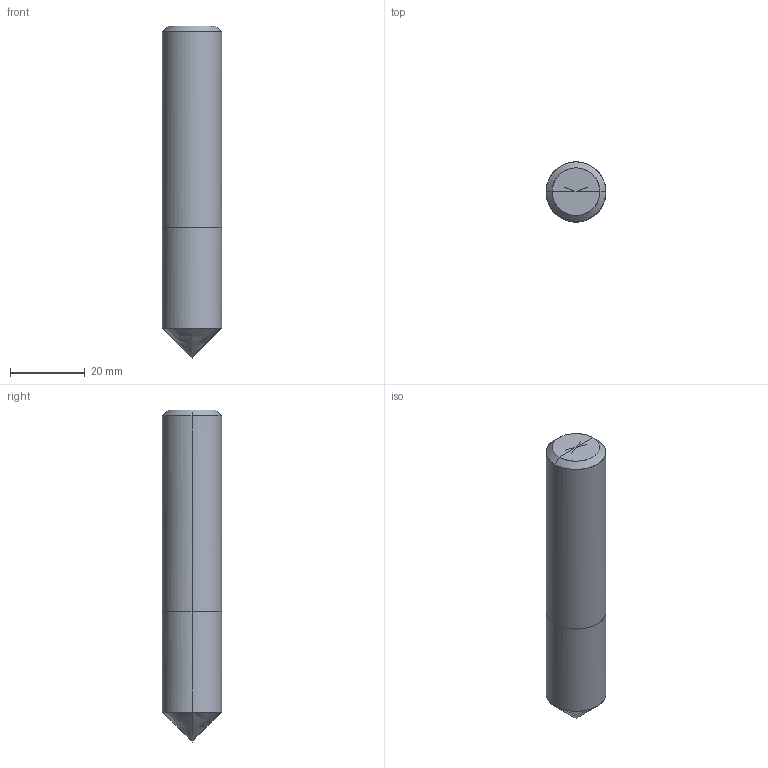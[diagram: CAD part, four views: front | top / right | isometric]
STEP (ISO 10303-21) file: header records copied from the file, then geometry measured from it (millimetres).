
FILE_DESCRIPTION(/* description */ (''),/* implementation_level */ '2;1');
FILE_NAME(/*name*/ '2141-16-90',/*time_stamp*/'2021-5-6T11:14:5',/*author*/ ('ISBE GmbH'),/*organization*/ ('ISBE GmbH'),/*preprocessor_version*/ 'STEP IO v1.0',/*originating_system*/ '',/*authorisation*/ '');
FILE_SCHEMA (('AUTOMOTIVE_DESIGN'));
Length unit declared in the file: millimetre
Products named in the file (1): Document
Bounding box: 16 x 15.98 x 89 mm (x, y, z)
Surface area: 4915.5 mm2 (no closed solid volume)
Topology: 0 solids, 14 shells, 14 faces, 58 edges, 52 vertices
Faces by surface type: bspline 14
Entity records: 949 total; most frequent: CARTESIAN_POINT 684, VERTEX_POINT 48, EDGE_CURVE 48, ORIENTED_EDGE 48, DIRECTION 16, EDGE_LOOP 14, FACE_OUTER_BOUND 14, ADVANCED_FACE 14
